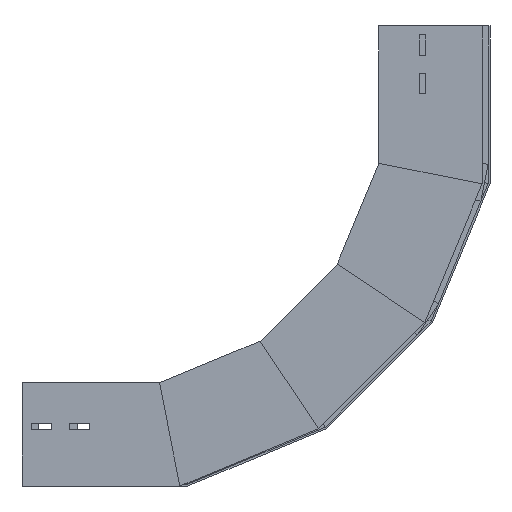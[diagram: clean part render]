
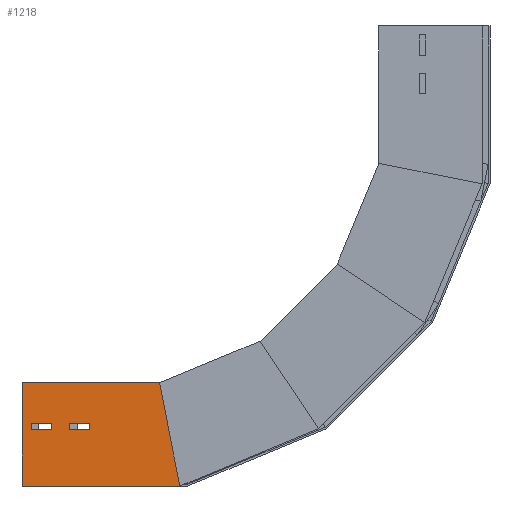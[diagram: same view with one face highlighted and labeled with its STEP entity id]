
A CAD part, left-side view. The second image highlights one B-rep face of the part: STEP entity #1218.
In plain terms, the highlighted planar face has unit normal (-1, 0, 0) as drawn and (1, 0, 0) by its records, which use the part's own axes.
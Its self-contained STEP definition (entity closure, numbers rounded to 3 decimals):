
#2 = EDGE_CURVE ( 'NONE', #468, #1878, #894, .T. ) ;
#33 = LINE ( 'NONE', #314, #1099 ) ;
#52 = LINE ( 'NONE', #1065, #1635 ) ;
#106 = ORIENTED_EDGE ( 'NONE', *, *, #1402, .T. ) ;
#147 = VECTOR ( 'NONE', #1117, 1000. ) ;
#163 = CARTESIAN_POINT ( 'NONE',  ( 0., 68.5, -31.835 ) ) ;
#175 = VERTEX_POINT ( 'NONE', #1295 ) ;
#183 = FACE_BOUND ( 'NONE', #1398, .T. ) ;
#192 = CARTESIAN_POINT ( 'NONE',  ( 0., 68.5, -73.505 ) ) ;
#200 = EDGE_CURVE ( 'NONE', #175, #255, #1435, .T. ) ;
#244 = VERTEX_POINT ( 'NONE', #1137 ) ;
#255 = VERTEX_POINT ( 'NONE', #1111 ) ;
#301 = ORIENTED_EDGE ( 'NONE', *, *, #1740, .T. ) ;
#313 = VECTOR ( 'NONE', #1324, 1000. ) ;
#314 = CARTESIAN_POINT ( 'NONE',  ( 0., 61.5, -51.505 ) ) ;
#325 = CARTESIAN_POINT ( 'NONE',  ( 0., 112.5, 0. ) ) ;
#328 = DIRECTION ( 'NONE',  ( 0., -1., 0. ) ) ;
#329 = CARTESIAN_POINT ( 'NONE',  ( 0., 0., 0. ) ) ;
#363 = CARTESIAN_POINT ( 'NONE',  ( 0., 0., 0. ) ) ;
#373 = LINE ( 'NONE', #363, #405 ) ;
#387 = EDGE_CURVE ( 'NONE', #648, #1461, #735, .T. ) ;
#392 = CARTESIAN_POINT ( 'NONE',  ( 0., 68.5, -9.835 ) ) ;
#397 = ORIENTED_EDGE ( 'NONE', *, *, #1050, .T. ) ;
#405 = VECTOR ( 'NONE', #949, 1000. ) ;
#448 = DIRECTION ( 'NONE',  ( 0., 0., -1. ) ) ;
#468 = VERTEX_POINT ( 'NONE', #625 ) ;
#476 = ORIENTED_EDGE ( 'NONE', *, *, #747, .T. ) ;
#556 = CARTESIAN_POINT ( 'NONE',  ( 0., 0., 0. ) ) ;
#585 = PLANE ( 'NONE',  #1488 ) ;
#595 = ORIENTED_EDGE ( 'NONE', *, *, #1336, .T. ) ;
#606 = VERTEX_POINT ( 'NONE', #556 ) ;
#609 = VERTEX_POINT ( 'NONE', #1145 ) ;
#625 = CARTESIAN_POINT ( 'NONE',  ( 0., 68.5, -31.835 ) ) ;
#648 = VERTEX_POINT ( 'NONE', #1459 ) ;
#656 = VECTOR ( 'NONE', #1275, 1000. ) ;
#715 = DIRECTION ( 'NONE',  ( 0., 1., 0. ) ) ;
#722 = VECTOR ( 'NONE', #715, 1000. ) ;
#735 = LINE ( 'NONE', #325, #1779 ) ;
#742 = CARTESIAN_POINT ( 'NONE',  ( 0., 32.93, -165.55 ) ) ;
#747 = EDGE_CURVE ( 'NONE', #1419, #1279, #33, .T. ) ;
#757 = FACE_BOUND ( 'NONE', #988, .T. ) ;
#772 = CARTESIAN_POINT ( 'NONE',  ( 0., 0., 0. ) ) ;
#814 = EDGE_CURVE ( 'NONE', #1461, #997, #1469, .T. ) ;
#832 = CARTESIAN_POINT ( 'NONE',  ( 0., 68.5, -51.505 ) ) ;
#871 = VECTOR ( 'NONE', #1041, 1000. ) ;
#881 = ORIENTED_EDGE ( 'NONE', *, *, #1197, .T. ) ;
#894 = LINE ( 'NONE', #163, #1188 ) ;
#904 = DIRECTION ( 'NONE',  ( 0., 0., 1. ) ) ;
#949 = DIRECTION ( 'NONE',  ( 0., 0., -1. ) ) ;
#988 = EDGE_LOOP ( 'NONE', ( #397, #301, #1840, #106 ) ) ;
#997 = VERTEX_POINT ( 'NONE', #1714 ) ;
#1011 = ORIENTED_EDGE ( 'NONE', *, *, #387, .F. ) ;
#1013 = ORIENTED_EDGE ( 'NONE', *, *, #200, .T. ) ;
#1041 = DIRECTION ( 'NONE',  ( 0., -1., 0. ) ) ;
#1050 = EDGE_CURVE ( 'NONE', #609, #244, #1131, .T. ) ;
#1065 = CARTESIAN_POINT ( 'NONE',  ( 0., 68.5, -9.835 ) ) ;
#1095 = CARTESIAN_POINT ( 'NONE',  ( 0., 61.5, -51.505 ) ) ;
#1099 = VECTOR ( 'NONE', #1195, 1000. ) ;
#1111 = CARTESIAN_POINT ( 'NONE',  ( 0., 68.5, -73.505 ) ) ;
#1117 = DIRECTION ( 'NONE',  ( 0., 1., 0. ) ) ;
#1131 = LINE ( 'NONE', #392, #722 ) ;
#1137 = CARTESIAN_POINT ( 'NONE',  ( 0., 68.5, -9.835 ) ) ;
#1145 = CARTESIAN_POINT ( 'NONE',  ( 0., 61.5, -9.835 ) ) ;
#1184 = DIRECTION ( 'NONE',  ( 0., 1., 0. ) ) ;
#1188 = VECTOR ( 'NONE', #328, 1000. ) ;
#1190 = EDGE_CURVE ( 'NONE', #606, #648, #1331, .T. ) ;
#1195 = DIRECTION ( 'NONE',  ( 0., 0., 1. ) ) ;
#1197 = EDGE_CURVE ( 'NONE', #255, #1419, #1782, .T. ) ;
#1200 = FACE_OUTER_BOUND ( 'NONE', #1485, .T. ) ;
#1218 = ADVANCED_FACE ( 'NONE', ( #183, #1200, #757 ), #585, .F. ) ;
#1219 = VECTOR ( 'NONE', #1864, 1000. ) ;
#1231 = VECTOR ( 'NONE', #1184, 1000. ) ;
#1258 = LINE ( 'NONE', #1285, #656 ) ;
#1275 = DIRECTION ( 'NONE',  ( 0., 0., 1. ) ) ;
#1279 = VERTEX_POINT ( 'NONE', #1095 ) ;
#1284 = CARTESIAN_POINT ( 'NONE',  ( 0., 68.5, -51.505 ) ) ;
#1285 = CARTESIAN_POINT ( 'NONE',  ( 0., 61.5, -9.835 ) ) ;
#1295 = CARTESIAN_POINT ( 'NONE',  ( 0., 68.5, -51.505 ) ) ;
#1324 = DIRECTION ( 'NONE',  ( 0., -0.981, -0.195 ) ) ;
#1331 = LINE ( 'NONE', #772, #1231 ) ;
#1336 = EDGE_CURVE ( 'NONE', #606, #997, #373, .T. ) ;
#1394 = DIRECTION ( 'NONE',  ( 0., 0., -1. ) ) ;
#1398 = EDGE_LOOP ( 'NONE', ( #1870, #1013, #881, #476 ) ) ;
#1402 = EDGE_CURVE ( 'NONE', #1878, #609, #1258, .T. ) ;
#1419 = VERTEX_POINT ( 'NONE', #1587 ) ;
#1429 = ORIENTED_EDGE ( 'NONE', *, *, #1190, .F. ) ;
#1435 = LINE ( 'NONE', #1284, #1219 ) ;
#1445 = CARTESIAN_POINT ( 'NONE',  ( 0., 112.5, -149.722 ) ) ;
#1459 = CARTESIAN_POINT ( 'NONE',  ( 0., 112.5, 0. ) ) ;
#1461 = VERTEX_POINT ( 'NONE', #1445 ) ;
#1469 = LINE ( 'NONE', #742, #313 ) ;
#1485 = EDGE_LOOP ( 'NONE', ( #1011, #1429, #595, #1687 ) ) ;
#1488 = AXIS2_PLACEMENT_3D ( 'NONE', #329, #1639, #904 ) ;
#1587 = CARTESIAN_POINT ( 'NONE',  ( 0., 61.5, -73.505 ) ) ;
#1635 = VECTOR ( 'NONE', #1394, 1000. ) ;
#1639 = DIRECTION ( 'NONE',  ( -1., 0., 0. ) ) ;
#1687 = ORIENTED_EDGE ( 'NONE', *, *, #814, .F. ) ;
#1691 = LINE ( 'NONE', #832, #147 ) ;
#1714 = CARTESIAN_POINT ( 'NONE',  ( 0., 0., -172.1 ) ) ;
#1740 = EDGE_CURVE ( 'NONE', #244, #468, #52, .T. ) ;
#1779 = VECTOR ( 'NONE', #448, 1000. ) ;
#1782 = LINE ( 'NONE', #192, #871 ) ;
#1840 = ORIENTED_EDGE ( 'NONE', *, *, #2, .T. ) ;
#1841 = EDGE_CURVE ( 'NONE', #1279, #175, #1691, .T. ) ;
#1854 = CARTESIAN_POINT ( 'NONE',  ( 0., 61.5, -31.835 ) ) ;
#1864 = DIRECTION ( 'NONE',  ( 0., 0., -1. ) ) ;
#1870 = ORIENTED_EDGE ( 'NONE', *, *, #1841, .T. ) ;
#1878 = VERTEX_POINT ( 'NONE', #1854 ) ;
